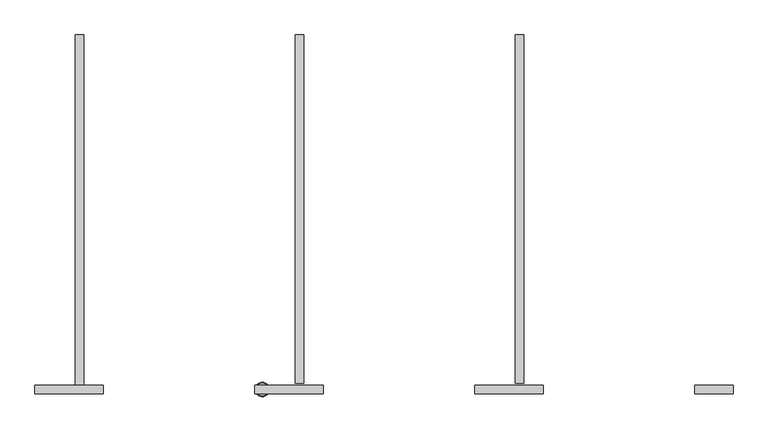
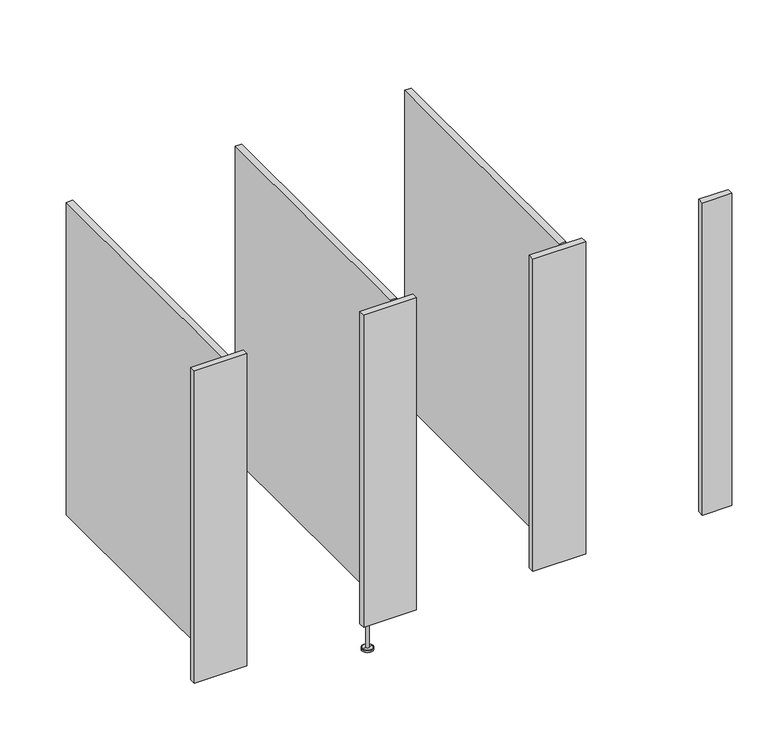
"""IFC4 building model written with IfcOpenShell, lengths in millimetres: proxy geometry, Partition_EuroStyle-Bradley_Corp-4StandardStall-NEP-LOFT : Partition_EuroStyle-Bradley_Corp-4StandardStall-NEP-LOFT."""

from ifc_helpers import new_model, si_unit, frame, origin, place, context, project, spatial, polyline, circle_curve, outline, extrude, source, transform, mapped, element, save
from ifc_brep_helpers import plane_surface, cylinder_surface, revolved_surface, advanced_brep


def specialty_equipment_4d244adf(model_context):
    return source(origin(), model_context, "Body", "SolidModel", [
        advanced_brep(
        [(1585.4453255, -1541.9996549, 150.0000008), (1603.4453248, -1541.9996549, 150.0000008), (1603.4453248, -1541.9996549, 12.0000001), (1585.4453255, -1541.9996549, 12.0000001), (1594.4453251, -1541.9996549, 150.0000008), (1563.4453262, -1541.9996549, 0.0), (1625.4453241, -1541.9996549, 0.0), (1594.4453251, -1541.9996549, 0.0), (1563.4453262, -1541.9996549, 10.0000001), (1625.4453241, -1541.9996549, 10.0000001), (1565.4477381, -1541.9996549, 12.0000001), (1623.4429122, -1541.9996549, 12.0000001)],
        [
            (0, 1, circle_curve(frame((1594.4453251, -1541.9996549, 150.0000008), z_axis=(0.0, 0.0, -1.0), x_axis=(1.0, 0.0, 0.0)), 8.9999997)),
            (1, 2),
            (2, 3, circle_curve(frame((1594.4453251, -1541.9996549, 12.0000001), z_axis=(0.0, 0.0, 1.0), x_axis=(1.0, 0.0, 0.0)), 8.9999997)),
            (3, 0),
            (1, 0, circle_curve(frame((1594.4453251, -1541.9996549, 150.0000008), z_axis=(0.0, 0.0, -1.0), x_axis=(1.0, 0.0, 0.0)), 8.9999997)),
            (3, 2, circle_curve(frame((1594.4453251, -1541.9996549, 12.0000001), z_axis=(0.0, 0.0, 1.0), x_axis=(1.0, 0.0, 0.0)), 8.9999997)),
            (4, 1),
            (0, 4),
            (5, 6, circle_curve(frame((1594.4453251, -1541.9996549, 0.0), z_axis=(0.0, 0.0, -1.0), x_axis=(1.0, 0.0, 0.0)), 30.9999989)),
            (6, 7),
            (7, 5),
            (6, 5, circle_curve(frame((1594.4453251, -1541.9996549, 0.0), z_axis=(0.0, 0.0, -1.0), x_axis=(1.0, 0.0, 0.0)), 30.9999989)),
            (8, 9, circle_curve(frame((1594.4453251, -1541.9996549, 10.0000001), z_axis=(0.0, 0.0, -1.0), x_axis=(1.0, 0.0, 0.0)), 30.9999989)),
            (9, 6),
            (5, 8),
            (9, 8, circle_curve(frame((1594.4453251, -1541.9996549, 10.0000001), z_axis=(0.0, 0.0, -1.0), x_axis=(1.0, 0.0, 0.0)), 30.9999989)),
            (10, 11, circle_curve(frame((1594.4453251, -1541.9996549, 12.0000001), z_axis=(0.0, 0.0, -1.0), x_axis=(1.0, 0.0, 0.0)), 28.997587)),
            (11, 9),
            (8, 10),
            (11, 10, circle_curve(frame((1594.4453251, -1541.9996549, 12.0000001), z_axis=(0.0, 0.0, -1.0), x_axis=(1.0, 0.0, 0.0)), 28.997587)),
            (2, 11),
            (10, 3),
        ],
        [
            cylinder_surface(frame((1594.4453251, -1541.9996549, 0.0), z_axis=(0.0, 0.0, 1.0), x_axis=(1.0, 0.0, 0.0)), 8.9999997),
            plane_surface(frame((1594.4453251, -1541.9996549, 150.0000008), z_axis=(0.0, 0.0, 1.0), x_axis=(1.0, 0.0, 0.0))),
            plane_surface(frame((1594.4453251, -1541.9996549, 0.0), z_axis=(0.0, 0.0, -1.0), x_axis=(1.0, 0.0, 0.0))),
            cylinder_surface(frame((1594.4453251, -1541.9996549, 0.0), z_axis=(0.0, 0.0, 1.0), x_axis=(1.0, 0.0, 0.0)), 30.9999989),
            revolved_surface(polyline([(1625.4453241, -1541.9996549, 10.0000001), (1623.4429122, -1541.9996549, 12.0000001)]), (1594.4453251, -1541.9996549, 0.0), (0.0, 0.0, 1.0)),
            plane_surface(frame((1594.4453251, -1541.9996549, 12.0000001), z_axis=(0.0, 0.0, 1.0), x_axis=(1.0, 0.0, 0.0))),
        ],
        [
            (0, [[1, 2, 3, 4]]),
            (0, [[5, -4, 6, -2]]),
            (1, [[7, -1, 8]]),
            (1, [[-8, -5, -7]]),
            (2, [[9, 10, 11]]),
            (2, [[12, -11, -10]]),
            (3, [[13, 14, -9, 15]]),
            (3, [[16, -15, -12, -14]]),
            (4, [[17, 18, -13, 19]]),
            (4, [[20, -19, -16, -18]]),
            (5, [[-3, 21, -17, 22]]),
            (5, [[-6, -22, -20, -21]]),
        ],
    ),
        extrude(outline(polyline([(907.4170903, -1524.0), (907.4170903, -1559.9996549), (612.1100141, -1559.9996549), (612.1100141, -1524.0), (907.4170903, -1524.0)])), frame((0.0, 0.0, 150.0), z_axis=(0.0, 0.0, 1.0), x_axis=(1.0, 0.0, 0.0)), (0.0, 0.0, 1.0), 1855.0),
        extrude(outline(polyline([(1857.8170903, -1524.0), (1857.8170903, -1559.9996549), (1562.5201766, -1559.9996549), (1562.5201766, -1524.0), (1857.8170903, -1524.0)])), frame((0.0, 0.0, 150.0), z_axis=(0.0, 0.0, 1.0), x_axis=(1.0, 0.0, 0.0)), (0.0, 0.0, 1.0), 1855.0),
        extrude(outline(polyline([(2808.2170903, -1524.0), (2808.2170903, -1559.9996549), (2512.9201766, -1559.9996549), (2512.9201766, -1524.0), (2808.2170903, -1524.0)])), frame((0.0, 0.0, 150.0), z_axis=(0.0, 0.0, 1.0), x_axis=(1.0, 0.0, 0.0)), (0.0, 0.0, 1.0), 1855.0),
        extrude(outline(polyline([(3463.3201766, -1524.0), (3628.7143251, -1524.0), (3628.7143251, -1559.9996549), (3463.3201766, -1559.9996549), (3463.3201766, -1524.0)])), frame((0.0, 0.0, 150.0), z_axis=(0.0, 0.0, 1.0), x_axis=(1.0, 0.0, 0.0)), (0.0, 0.0, 1.0), 1855.0),
        extrude(outline(polyline([(2688.2203251, -1514.0), (2688.2203251, -9.9993891), (2724.2203251, -9.9993891), (2724.2203251, -1514.0), (2688.2203251, -1514.0)])), frame((0.0, 0.0, 150.0), z_axis=(0.0, 0.0, 1.0), x_axis=(1.0, 0.0, 0.0)), (0.0, 0.0, 1.0), 1855.0),
        extrude(outline(polyline([(1737.8203251, -1514.0), (1737.8203251, -9.9993891), (1773.8203251, -9.9993891), (1773.8203251, -1514.0), (1737.8203251, -1514.0)])), frame((0.0, 0.0, 150.0), z_axis=(0.0, 0.0, 1.0), x_axis=(1.0, 0.0, 0.0)), (0.0, 0.0, 1.0), 1855.0),
        extrude(outline(polyline([(787.4, -1524.0), (787.4, -9.9993891), (823.4203251, -9.9993891), (823.4203251, -1524.0), (787.4, -1524.0)])), frame((0.0, 0.0, 150.0), z_axis=(0.0, 0.0, 1.0), x_axis=(1.0, 0.0, 0.0)), (0.0, 0.0, 1.0), 1855.0),
    ])


if __name__ == "__main__":
    model = new_model("IFC4")
    model_context = context("Model", 3, world=origin())
    ifc_project = project(units=[si_unit("LENGTHUNIT", "METRE", prefix="MILLI")], contexts=[model_context])
    site = spatial("IfcSite", under=ifc_project)
    building = spatial("IfcBuilding", under=site)
    placement = place(None, origin())
    specialty_equipment_shape = specialty_equipment_4d244adf(model_context)
    element("IfcBuildingElementProxy", 1, Name="Partition_EuroStyle-Bradley_Corp-4StandardStall-NEP-LOFT : Partition_EuroStyle-Bradley_Corp-4StandardStall-NEP-LOFT", ObjectType="Partition_EuroStyle-Bradley_Corp-4StandardStall-NEP-LOFT : Partition_EuroStyle-Bradley_Corp-4StandardStall-NEP-LOFT", at=placement, inside=building, context=model_context, shape_type="MappedRepresentation", body=[
        mapped(specialty_equipment_shape, transform((0.0, 0.0, 0.0), x_axis=(1.0, 0.0, 0.0), y_axis=(0.0, 1.0, 0.0), z_axis=(0.0, 0.0, 1.0))),
    ])
    save(model, "model.ifc")
